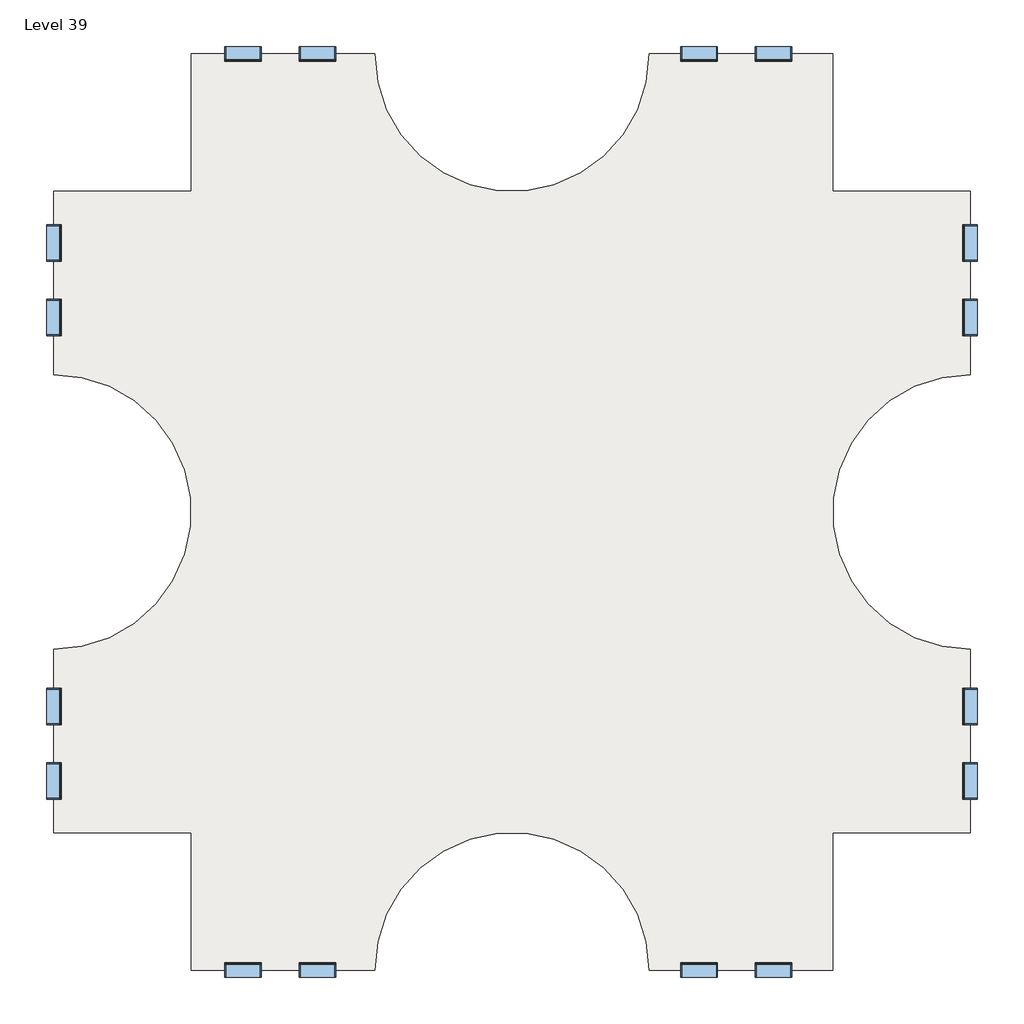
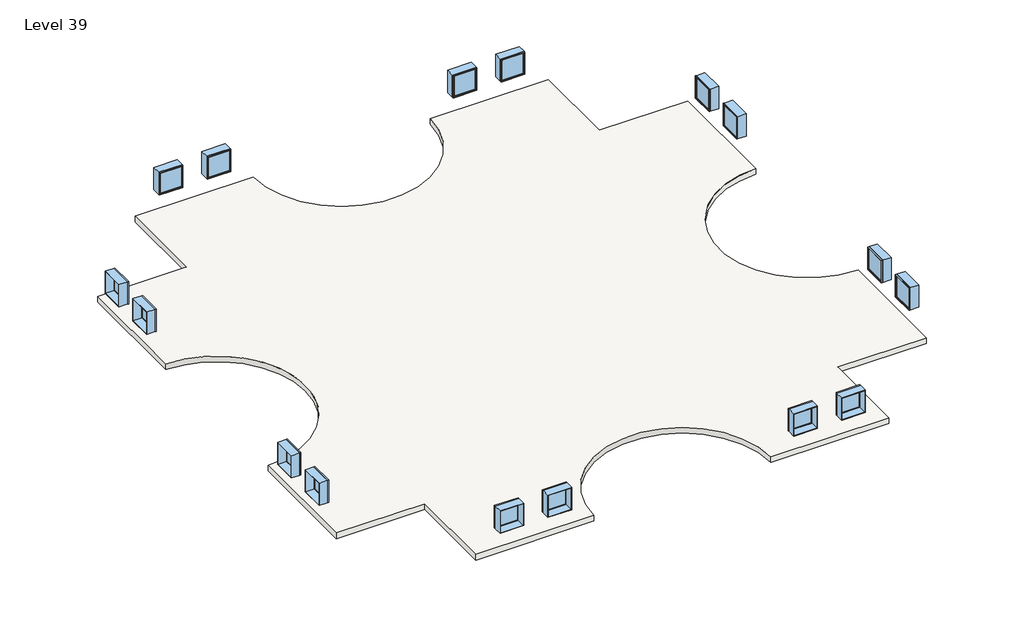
# One storey: 16 windows, 3 slabs.
"""IFC4 building model written with IfcOpenShell, lengths in millimetres."""

import ifcopenshell
import ifcopenshell.guid

model = None  # the IFC model being written
_history = None  # IfcOwnerHistory: only IFC2X3 demands one
_inside = {}  # id of a spatial element -> (the spatial element, [elements in it])
_under = {}  # id of a project, library or spatial element -> (it, [spatial elements below it])
_declared = {}  # id of a project -> (the project, [libraries it declares])
_typed = {}  # id of a type object -> (the type object, [elements of that type])
_made_of = {}  # id of a material, layer set ... -> (it, [elements and type objects made of it])


def new_model(schema):
    """Start an empty IFC model of exactly this schema.

    Asked for "IFC4X3", IfcOpenShell would pick the latest addendum, in which some entities
    have other attributes; the version numbers below select the first issue.
    IFC2X3 requires an IfcOwnerHistory on every rooted entity: one is made here for all.
    """
    global model, _history
    if schema == "IFC4X3":
        model = ifcopenshell.file(schema_version=(4, 3, 0, 0))
    else:
        model = ifcopenshell.file(schema=schema)
    _inside.clear()
    _under.clear()
    _declared.clear()
    _typed.clear()
    _made_of.clear()
    _history = None
    if model.schema == "IFC2X3":
        org = make("IfcOrganization", Name="unknown")
        user = make(
            "IfcPersonAndOrganization",
            ThePerson=make("IfcPerson", FamilyName="unknown"),
            TheOrganization=org,
        )
        app = make(
            "IfcApplication",
            ApplicationDeveloper=org,
            Version="unknown",
            ApplicationFullName="unknown",
            ApplicationIdentifier="unknown",
        )
        _history = make(
            "IfcOwnerHistory",
            OwningUser=user,
            OwningApplication=app,
            ChangeAction="ADDED",
            CreationDate=0,
        )
    return model


def make(cls, **values):
    """One entity of the class cls with the attributes given. An attribute that is None is left unset."""
    return model.create_entity(
        cls, **{name: value for name, value in values.items() if value is not None}
    )


def rooted(cls, **values):
    """An entity with a GlobalId (a new one), such as an element, a storey or a relation."""
    return make(cls, GlobalId=ifcopenshell.guid.new(), OwnerHistory=_history, **values)


def si_unit(unit_type, name, prefix=None):
    """IfcSIUnit, for example si_unit("LENGTHUNIT", "METRE", prefix="MILLI")."""
    return make("IfcSIUnit", UnitType=unit_type, Prefix=prefix, Name=name)


def assignment(units):
    """IfcUnitAssignment: the units of a project."""
    return None if units is None else make("IfcUnitAssignment", Units=units)


def point(xyz):
    """IfcCartesianPoint."""
    return None if xyz is None else make("IfcCartesianPoint", Coordinates=xyz)


def direction(xyz):
    """IfcDirection."""
    return None if xyz is None else make("IfcDirection", DirectionRatios=xyz)


def frame(location, z_axis=None, x_axis=None):
    """IfcAxis2Placement3D, a coordinate frame: its origin and axes. An axis left out is left unset."""
    return make(
        "IfcAxis2Placement3D",
        Location=point(location),
        Axis=direction(z_axis),
        RefDirection=direction(x_axis),
    )


def frame_2d(location, x_axis=None):
    """IfcAxis2Placement2D, a coordinate frame in the plane: its origin and x axis."""
    return make(
        "IfcAxis2Placement2D", Location=point(location), RefDirection=direction(x_axis)
    )


def origin():
    """The frame at (0, 0, 0) with its axes left unset."""
    return frame((0.0, 0.0, 0.0))


def place(relative_to, where):
    """IfcLocalPlacement: puts the frame where relative to a parent placement (None: the world)."""
    return make(
        "IfcLocalPlacement", PlacementRelTo=relative_to, RelativePlacement=where
    )


def context(
    kind, dimensions, precision=None, world=None, true_north=None, identifier=None
):
    """IfcGeometricRepresentationContext, for example the 3D "Model" context."""
    return make(
        "IfcGeometricRepresentationContext",
        ContextIdentifier=identifier,
        ContextType=kind,
        CoordinateSpaceDimension=dimensions,
        Precision=precision,
        WorldCoordinateSystem=world,
        TrueNorth=true_north,
    )


def project(units=None, contexts=None):
    """IfcProject with its units and contexts."""
    return rooted(
        "IfcProject",
        Name="project",
        RepresentationContexts=contexts,
        UnitsInContext=assignment(units),
    )


def spatial(cls, under=None, at=None, **own):
    """A site, building, storey or space (cls), placed at a placement, below another one or the project."""
    s = rooted(cls, ObjectPlacement=at, **own)
    if under is not None:
        _under.setdefault(under.id(), (under, []))[1].append(s)
    return s


def polyline(points):
    """IfcPolyline through the points."""
    return make("IfcPolyline", Points=[point(p) for p in points])


def circle_curve(where, radius):
    """IfcCircle in the frame where."""
    return make("IfcCircle", Position=where, Radius=radius)


def trimmed(basis, trim1, trim2, sense, master):
    """IfcTrimmedCurve: the piece of a basis curve between two trims."""
    return make(
        "IfcTrimmedCurve",
        BasisCurve=basis,
        Trim1=trim1,
        Trim2=trim2,
        SenseAgreement=sense,
        MasterRepresentation=master,
    )


def segment(curve, same_sense, transition):
    """IfcCompositeCurveSegment."""
    return make(
        "IfcCompositeCurveSegment",
        Transition=transition,
        SameSense=same_sense,
        ParentCurve=curve,
    )


def composite_curve(segments, self_intersect=None):
    """IfcCompositeCurve: segments joined end to end."""
    return make("IfcCompositeCurve", Segments=segments, SelfIntersect=self_intersect)


def outline(outer, holes=None, kind="AREA"):
    """IfcArbitraryClosedProfileDef: a profile drawn as a closed curve; with holes, ...WithVoids."""
    if holes is None:
        return make("IfcArbitraryClosedProfileDef", ProfileType=kind, OuterCurve=outer)
    return make(
        "IfcArbitraryProfileDefWithVoids",
        ProfileType=kind,
        OuterCurve=outer,
        InnerCurves=holes,
    )


def extrude(swept, where, along, depth):
    """IfcExtrudedAreaSolid: the profile swept, set in the frame where, extruded along a direction by depth."""
    return make(
        "IfcExtrudedAreaSolid",
        SweptArea=swept,
        Position=where,
        ExtrudedDirection=direction(along),
        Depth=depth,
    )


def shape(context_of_items, identifier, shape_type, items):
    """IfcShapeRepresentation: the items that make up one representation, for example the "Body"."""
    return make(
        "IfcShapeRepresentation",
        ContextOfItems=context_of_items,
        RepresentationIdentifier=identifier,
        RepresentationType=shape_type,
        Items=items,
    )


def source(mapping_origin, context_of_items, identifier, shape_type, items):
    """IfcRepresentationMap: a shape defined once, which mapped items show again and again."""
    return make(
        "IfcRepresentationMap",
        MappingOrigin=mapping_origin,
        MappedRepresentation=shape(context_of_items, identifier, shape_type, items),
    )


def transform(
    local_origin,
    x_axis=None,
    y_axis=None,
    z_axis=None,
    scale=None,
    scale2=None,
    scale3=None,
    uniform=True,
):
    """IfcCartesianTransformationOperator3D, or its non-uniform kind. x_axis, y_axis, z_axis: its Axis1, 2, 3."""
    if uniform:
        return make(
            "IfcCartesianTransformationOperator3D",
            Axis1=direction(x_axis),
            Axis2=direction(y_axis),
            LocalOrigin=point(local_origin),
            Scale=scale,
            Axis3=direction(z_axis),
        )
    return make(
        "IfcCartesianTransformationOperator3DnonUniform",
        Axis1=direction(x_axis),
        Axis2=direction(y_axis),
        LocalOrigin=point(local_origin),
        Scale=scale,
        Axis3=direction(z_axis),
        Scale2=scale2,
        Scale3=scale3,
    )


def mapped(mapping_source, mapping_target):
    """IfcMappedItem: shows the shape of a source again, moved by a transform."""
    return make(
        "IfcMappedItem", MappingSource=mapping_source, MappingTarget=mapping_target
    )


def made_of(thing, what):
    """Note that an element or type object is made of a material, layer set ...; save() writes the relation."""
    if what is not None:
        _made_of.setdefault(what.id(), (what, []))[1].append(thing)
    return thing


def element(
    cls,
    number,
    at=None,
    inside=None,
    cuts=None,
    type_object=None,
    material=None,
    context=None,
    identifier="Body",
    shape_type=None,
    held_by="IfcProductDefinitionShape",
    body=None,
    shapes=None,
    **own,
):
    """One element of the class cls, such as IfcWall. Its Tag is "e" and its number.

    at: its placement. inside: the storey or other place that contains it. cuts: it is an
    opening in that element (IfcRelVoidsElement). A single representation is given by context,
    identifier, shape_type and body (its items); several are given by shapes. held_by: the class
    of the entity that holds the representations. save() writes the other relations.
    """
    e = rooted(cls, Tag="e%d" % number, ObjectPlacement=at, **own)
    if body is not None:
        shapes = [shape(context, identifier, shape_type, body)]
    if shapes is not None:
        e.Representation = make(held_by, Representations=shapes)
    if inside is not None:
        _inside.setdefault(inside.id(), (inside, []))[1].append(e)
    if cuts is not None:
        rooted(
            "IfcRelVoidsElement", RelatingBuildingElement=cuts, RelatedOpeningElement=e
        )
    if type_object is not None:
        _typed.setdefault(type_object.id(), (type_object, []))[1].append(e)
    return made_of(e, material)


def aggregate(whole, parts):
    """IfcRelAggregates: a whole, such as a stair, and the parts it consists of."""
    return rooted("IfcRelAggregates", RelatingObject=whole, RelatedObjects=parts)


def save(model, path):
    """Write the relations noted so far, then the file.

    IfcRelAggregates (storeys below a building ...), IfcRelContainedInSpatialStructure (elements
    in a storey), IfcRelDefinesByType, IfcRelAssociatesMaterial and IfcRelDeclares: one each for
    every whole, place, type object, material and project.
    """
    for whole, parts in _under.values():
        aggregate(whole, parts)
    for where, things in _inside.values():
        rooted(
            "IfcRelContainedInSpatialStructure",
            RelatedElements=things,
            RelatingStructure=where,
        )
    for kind, things in _typed.values():
        rooted("IfcRelDefinesByType", RelatedObjects=things, RelatingType=kind)
    for what, things in _made_of.values():
        rooted("IfcRelAssociatesMaterial", RelatedObjects=things, RelatingMaterial=what)
    for by, libraries in _declared.values():
        rooted("IfcRelDeclares", RelatingContext=by, RelatedDefinitions=libraries)
    model.write(path)


def window_d0035ecf(model_context):
    return source(origin(), model_context, "Body", "SweptSolid", [
        extrude(outline(polyline([(508.0, 200.025), (-584.2, 200.025), (-584.2, 212.725), (508.0, 212.725), (508.0, 200.025)])), frame((0.0, 0.0, 977.9), z_axis=(0.0, 0.0, 1.0), x_axis=(1.0, 0.0, 0.0)), (0.0, 0.0, 1.0), 1092.2),
        extrude(outline(polyline([(2114.55, -628.65), (933.45, -628.65), (933.45, 552.45), (2114.55, 552.45), (2114.55, -628.65)]), holes=[polyline([(2070.1, -584.2), (2070.1, 508.0), (977.9, 508.0), (977.9, -584.2), (2070.1, -584.2)])]), frame((0.0, 184.15, 0.0), z_axis=(0.0, 1.0, 0.0), x_axis=(0.0, 0.0, 1.0)), (0.0, 0.0, 1.0), 44.45),
        extrude(outline(polyline([(2133.6, -647.7), (914.4, -647.7), (914.4, 571.5), (2133.6, 571.5), (2133.6, -647.7)]), holes=[polyline([(2101.85, -615.95), (2101.85, 539.75), (946.15, 539.75), (946.15, -615.95), (2101.85, -615.95)])]), frame((0.0, -247.65, 0.0), z_axis=(0.0, 1.0, 0.0), x_axis=(0.0, 0.0, 1.0)), (0.0, 0.0, 1.0), 431.8),
        extrude(outline(polyline([(2133.6, 571.5), (2133.6, -647.7), (914.4, -647.7), (914.4, 571.5), (2133.6, 571.5)]), holes=[polyline([(2114.55, 552.45), (933.45, 552.45), (933.45, -628.65), (2114.55, -628.65), (2114.55, 552.45)])]), frame((0.0, 184.15, 0.0), z_axis=(0.0, 1.0, 0.0), x_axis=(0.0, 0.0, 1.0)), (0.0, 0.0, 1.0), 63.5),
    ])


def window_d434eb62(model_context):
    return source(origin(), model_context, "Body", "SweptSolid", [
        extrude(outline(polyline([(508.0, -200.025), (508.0, -212.725), (-584.2, -212.725), (-584.2, -200.025), (508.0, -200.025)])), frame((0.0, 0.0, 977.9), z_axis=(0.0, 0.0, 1.0), x_axis=(1.0, 0.0, 0.0)), (0.0, 0.0, 1.0), 1092.2),
        extrude(outline(polyline([(2114.55, -628.65), (933.45, -628.65), (933.45, 552.45), (2114.55, 552.45), (2114.55, -628.65)]), holes=[polyline([(2070.1, -584.2), (2070.1, 508.0), (977.9, 508.0), (977.9, -584.2), (2070.1, -584.2)])]), frame((0.0, -228.6, 0.0), z_axis=(0.0, 1.0, 0.0), x_axis=(0.0, 0.0, 1.0)), (0.0, 0.0, 1.0), 44.45),
        extrude(outline(polyline([(2133.6, -647.7), (914.4, -647.7), (914.4, 571.5), (2133.6, 571.5), (2133.6, -647.7)]), holes=[polyline([(2101.85, -615.95), (2101.85, 539.75), (946.15, 539.75), (946.15, -615.95), (2101.85, -615.95)])]), frame((0.0, -184.15, 0.0), z_axis=(0.0, 1.0, 0.0), x_axis=(0.0, 0.0, 1.0)), (0.0, 0.0, 1.0), 431.8),
        extrude(outline(polyline([(2133.6, 571.5), (2133.6, -647.7), (914.4, -647.7), (914.4, 571.5), (2133.6, 571.5)]), holes=[polyline([(2114.55, 552.45), (933.45, 552.45), (933.45, -628.65), (2114.55, -628.65), (2114.55, 552.45)])]), frame((0.0, -247.65, 0.0), z_axis=(0.0, 1.0, 0.0), x_axis=(0.0, 0.0, 1.0)), (0.0, 0.0, 1.0), 63.5),
    ])


model = new_model("IFC4")

# Units and contexts
model_context = context("Model", 3, world=origin())
ifc_project = project(units=[si_unit("LENGTHUNIT", "METRE", prefix="MILLI")], contexts=[model_context])

# Site, building, storey
site = spatial("IfcSite", under=ifc_project)
building = spatial("IfcBuilding", under=site)
storey = spatial("IfcBuildingStorey", under=building, Name="Level 39", Elevation=115824.0)

# Slabs
placement = place(None, origin())
element("IfcSlab", 1, ObjectType="Generic - 12\"", at=placement, inside=storey, context=model_context, shape_type="SweptSolid", body=[
    extrude(outline(composite_curve([segment(polyline([(-7150.3629456, 4479.6634547), (-7150.3629456, 9051.6634547), (-1054.3629456, 9051.6634547)]), True, "CONTINUOUS"), segment(trimmed(circle_curve(frame_2d((3517.6370544, 9051.6634547)), 4572.0), [point((-1054.3629456, 9051.6634547))], [point((8089.6370544, 9051.6634547))], True, "CARTESIAN"), True, "CONTINUOUS"), segment(polyline([(8089.6370544, 9051.6634547), (14185.6370544, 9051.6634547), (14185.6370544, 4479.6634547), (18757.6370544, 4479.6634547), (18757.6370544, -1616.3365453)]), True, "CONTINUOUS"), segment(trimmed(circle_curve(frame_2d((18757.6370544, -6188.3365453)), 4572.0), [point((18757.6370544, -1616.3365453))], [point((18757.6370544, -10760.3365453))], True, "CARTESIAN"), True, "CONTINUOUS"), segment(polyline([(18757.6370544, -10760.3365453), (18757.6370544, -16856.3365453), (14185.6370544, -16856.3365453), (14185.6370544, -21428.3365453), (8089.6370544, -21428.3365453)]), True, "CONTINUOUS"), segment(trimmed(circle_curve(frame_2d((3517.6370544, -21428.3365453)), 4572.0), [point((8089.6370544, -21428.3365453))], [point((-1054.3629456, -21428.3365453))], True, "CARTESIAN"), True, "CONTINUOUS"), segment(polyline([(-1054.3629456, -21428.3365453), (-7150.3629456, -21428.3365453), (-7150.3629456, -16856.3365453), (-11722.3629456, -16856.3365453), (-11722.3629456, -10760.3365453)]), True, "CONTINUOUS"), segment(trimmed(circle_curve(frame_2d((-11722.3629456, -6188.3365453)), 4572.0), [point((-11722.3629456, -10760.3365453))], [point((-11722.3629456, -1616.3365453))], True, "CARTESIAN"), True, "CONTINUOUS"), segment(polyline([(-11722.3629456, -1616.3365453), (-11722.3629456, 4479.6634547), (-7150.3629456, 4479.6634547)]), True, "CONTINUOUS")], self_intersect=False)), frame((0.0, 0.0, 115519.2), z_axis=(0.0, 0.0, 1.0), x_axis=(1.0, 0.0, 0.0)), (0.0, 0.0, 1.0), 304.8),
])
element("IfcSlab", 2, ObjectType="Generic - 12\"", at=placement, inside=storey, context=model_context, shape_type="SweptSolid", body=[
    extrude(outline(composite_curve([segment(polyline([(-7150.3629456, 4479.6634547), (-7150.3629456, 9051.6634547), (-1054.3629456, 9051.6634547)]), True, "CONTINUOUS"), segment(trimmed(circle_curve(frame_2d((3517.6370544, 9051.6634547)), 4572.0), [point((-1054.3629456, 9051.6634547))], [point((8089.6370544, 9051.6634547))], True, "CARTESIAN"), True, "CONTINUOUS"), segment(polyline([(8089.6370544, 9051.6634547), (14185.6370544, 9051.6634547), (14185.6370544, 4479.6634547), (18757.6370544, 4479.6634547), (18757.6370544, -1616.3365453)]), True, "CONTINUOUS"), segment(trimmed(circle_curve(frame_2d((18757.6370544, -6188.3365453)), 4572.0), [point((18757.6370544, -1616.3365453))], [point((18757.6370544, -10760.3365453))], True, "CARTESIAN"), True, "CONTINUOUS"), segment(polyline([(18757.6370544, -10760.3365453), (18757.6370544, -16856.3365453), (14185.6370544, -16856.3365453), (14185.6370544, -21428.3365453), (8089.6370544, -21428.3365453)]), True, "CONTINUOUS"), segment(trimmed(circle_curve(frame_2d((3517.6370544, -21428.3365453)), 4572.0), [point((8089.6370544, -21428.3365453))], [point((-1054.3629456, -21428.3365453))], True, "CARTESIAN"), True, "CONTINUOUS"), segment(polyline([(-1054.3629456, -21428.3365453), (-7150.3629456, -21428.3365453), (-7150.3629456, -16856.3365453), (-11722.3629456, -16856.3365453), (-11722.3629456, -10760.3365453)]), True, "CONTINUOUS"), segment(trimmed(circle_curve(frame_2d((-11722.3629456, -6188.3365453)), 4572.0), [point((-11722.3629456, -10760.3365453))], [point((-11722.3629456, -1616.3365453))], True, "CARTESIAN"), True, "CONTINUOUS"), segment(polyline([(-11722.3629456, -1616.3365453), (-11722.3629456, 4479.6634547), (-7150.3629456, 4479.6634547)]), True, "CONTINUOUS")], self_intersect=False)), frame((0.0, 0.0, 115519.2), z_axis=(0.0, 0.0, 1.0), x_axis=(1.0, 0.0, 0.0)), (0.0, 0.0, 1.0), 304.8),
])
element("IfcSlab", 3, ObjectType="Generic - 12\"", at=placement, inside=storey, context=model_context, shape_type="SweptSolid", body=[
    extrude(outline(composite_curve([segment(polyline([(-7150.3629456, 4479.6634547), (-7150.3629456, 9051.6634547), (-1054.3629456, 9051.6634547)]), True, "CONTINUOUS"), segment(trimmed(circle_curve(frame_2d((3517.6370544, 9051.6634547)), 4572.0), [point((-1054.3629456, 9051.6634547))], [point((8089.6370544, 9051.6634547))], True, "CARTESIAN"), True, "CONTINUOUS"), segment(polyline([(8089.6370544, 9051.6634547), (14185.6370544, 9051.6634547), (14185.6370544, 4479.6634547), (18757.6370544, 4479.6634547), (18757.6370544, -1616.3365453)]), True, "CONTINUOUS"), segment(trimmed(circle_curve(frame_2d((18757.6370544, -6188.3365453)), 4572.0), [point((18757.6370544, -1616.3365453))], [point((18757.6370544, -10760.3365453))], True, "CARTESIAN"), True, "CONTINUOUS"), segment(polyline([(18757.6370544, -10760.3365453), (18757.6370544, -16856.3365453), (14185.6370544, -16856.3365453), (14185.6370544, -21428.3365453), (8089.6370544, -21428.3365453)]), True, "CONTINUOUS"), segment(trimmed(circle_curve(frame_2d((3517.6370544, -21428.3365453)), 4572.0), [point((8089.6370544, -21428.3365453))], [point((-1054.3629456, -21428.3365453))], True, "CARTESIAN"), True, "CONTINUOUS"), segment(polyline([(-1054.3629456, -21428.3365453), (-7150.3629456, -21428.3365453), (-7150.3629456, -16856.3365453), (-11722.3629456, -16856.3365453), (-11722.3629456, -10760.3365453)]), True, "CONTINUOUS"), segment(trimmed(circle_curve(frame_2d((-11722.3629456, -6188.3365453)), 4572.0), [point((-11722.3629456, -10760.3365453))], [point((-11722.3629456, -1616.3365453))], True, "CARTESIAN"), True, "CONTINUOUS"), segment(polyline([(-11722.3629456, -1616.3365453), (-11722.3629456, 4479.6634547), (-7150.3629456, 4479.6634547)]), True, "CONTINUOUS")], self_intersect=False)), frame((0.0, 0.0, 115519.2), z_axis=(0.0, 0.0, 1.0), x_axis=(1.0, 0.0, 0.0)), (0.0, 0.0, 1.0), 304.8),
])

# Windows
window_shape = window_d0035ecf(model_context)
element("IfcWindow", 4, ObjectType="Fixed : 48\" x 48\"", at=placement, inside=storey, context=model_context, shape_type="MappedRepresentation", body=[
    mapped(window_shape, transform((-11719.1879456, 247.3884547, 115824.0), x_axis=(0.0, -1.0, 0.0), y_axis=(1.0, 0.0, 0.0), z_axis=(0.0, 0.0, 1.0))),
])
element("IfcWindow", 5, ObjectType="Fixed : 48\" x 48\"", at=placement, inside=storey, context=model_context, shape_type="MappedRepresentation", body=[
    mapped(window_shape, transform((-5469.1993281, 9048.4884547, 115824.0), x_axis=(-1.0, 0.0, 0.0), y_axis=(0.0, -1.0, 0.0), z_axis=(0.0, 0.0, 1.0))),
])
element("IfcWindow", 6, ObjectType="Fixed : 48\" x 48\"", at=placement, inside=storey, context=model_context, shape_type="MappedRepresentation", body=[
    mapped(window_shape, transform((-11719.1879456, -15175.1729277, 115824.0), x_axis=(0.0, -1.0, 0.0), y_axis=(1.0, 0.0, 0.0), z_axis=(0.0, 0.0, 1.0))),
])
element("IfcWindow", 7, ObjectType="Fixed : 48\" x 48\"", at=placement, inside=storey, context=model_context, shape_type="MappedRepresentation", body=[
    mapped(window_shape, transform((-2918.0879456, -21425.1615453, 115824.0), x_axis=(1.0, 0.0, 0.0), y_axis=(0.0, 1.0, 0.0), z_axis=(0.0, 0.0, 1.0))),
])
element("IfcWindow", 8, ObjectType="Fixed : 48\" x 48\"", at=placement, inside=storey, context=model_context, shape_type="MappedRepresentation", body=[
    mapped(window_shape, transform((18754.4620544, 2798.4998372, 115824.0), x_axis=(0.0, 1.0, 0.0), y_axis=(-1.0, 0.0, 0.0), z_axis=(0.0, 0.0, 1.0))),
])
element("IfcWindow", 9, ObjectType="Fixed : 48\" x 48\"", at=placement, inside=storey, context=model_context, shape_type="MappedRepresentation", body=[
    mapped(window_shape, transform((9705.7120544, 9048.4884547, 115824.0), x_axis=(-1.0, 0.0, 0.0), y_axis=(0.0, -1.0, 0.0), z_axis=(0.0, 0.0, 1.0))),
])
element("IfcWindow", 10, ObjectType="Fixed : 48\" x 48\"", at=placement, inside=storey, context=model_context, shape_type="MappedRepresentation", body=[
    mapped(window_shape, transform((18754.4620544, -12624.0615453, 115824.0), x_axis=(0.0, 1.0, 0.0), y_axis=(-1.0, 0.0, 0.0), z_axis=(0.0, 0.0, 1.0))),
])
element("IfcWindow", 11, ObjectType="Fixed : 48\" x 48\"", at=placement, inside=storey, context=model_context, shape_type="MappedRepresentation", body=[
    mapped(window_shape, transform((12256.8234368, -21425.1615453, 115824.0), x_axis=(1.0, 0.0, 0.0), y_axis=(0.0, 1.0, 0.0), z_axis=(0.0, 0.0, 1.0))),
])
window_2_shape = window_d434eb62(model_context)
element("IfcWindow", 12, ObjectType="Fixed : 48\" x 48\"", at=placement, inside=storey, context=model_context, shape_type="MappedRepresentation", body=[
    mapped(window_2_shape, transform((-11719.1879456, 2798.4998372, 115824.0), x_axis=(0.0, 1.0, 0.0), y_axis=(-1.0, 0.0, 0.0), z_axis=(0.0, 0.0, 1.0))),
])
element("IfcWindow", 13, ObjectType="Fixed : 48\" x 48\"", at=placement, inside=storey, context=model_context, shape_type="MappedRepresentation", body=[
    mapped(window_2_shape, transform((-2918.0879456, 9048.4884547, 115824.0), x_axis=(1.0, 0.0, 0.0), y_axis=(0.0, 1.0, 0.0), z_axis=(0.0, 0.0, 1.0))),
])
element("IfcWindow", 14, ObjectType="Fixed : 48\" x 48\"", at=placement, inside=storey, context=model_context, shape_type="MappedRepresentation", body=[
    mapped(window_2_shape, transform((-11719.1879456, -12624.0615453, 115824.0), x_axis=(0.0, 1.0, 0.0), y_axis=(-1.0, 0.0, 0.0), z_axis=(0.0, 0.0, 1.0))),
])
element("IfcWindow", 15, ObjectType="Fixed : 48\" x 48\"", at=placement, inside=storey, context=model_context, shape_type="MappedRepresentation", body=[
    mapped(window_2_shape, transform((-5469.1993281, -21425.1615453, 115824.0), x_axis=(-1.0, 0.0, 0.0), y_axis=(0.0, -1.0, 0.0), z_axis=(0.0, 0.0, 1.0))),
])
element("IfcWindow", 16, ObjectType="Fixed : 48\" x 48\"", at=placement, inside=storey, context=model_context, shape_type="MappedRepresentation", body=[
    mapped(window_2_shape, transform((18754.4620544, 247.3884547, 115824.0), x_axis=(0.0, -1.0, 0.0), y_axis=(1.0, 0.0, 0.0), z_axis=(0.0, 0.0, 1.0))),
])
element("IfcWindow", 17, ObjectType="Fixed : 48\" x 48\"", at=placement, inside=storey, context=model_context, shape_type="MappedRepresentation", body=[
    mapped(window_2_shape, transform((12256.8234368, 9048.4884547, 115824.0), x_axis=(1.0, 0.0, 0.0), y_axis=(0.0, 1.0, 0.0), z_axis=(0.0, 0.0, 1.0))),
])
element("IfcWindow", 18, ObjectType="Fixed : 48\" x 48\"", at=placement, inside=storey, context=model_context, shape_type="MappedRepresentation", body=[
    mapped(window_2_shape, transform((18754.4620544, -15175.1729277, 115824.0), x_axis=(0.0, -1.0, 0.0), y_axis=(1.0, 0.0, 0.0), z_axis=(0.0, 0.0, 1.0))),
])
element("IfcWindow", 19, ObjectType="Fixed : 48\" x 48\"", at=placement, inside=storey, context=model_context, shape_type="MappedRepresentation", body=[
    mapped(window_2_shape, transform((9705.7120544, -21425.1615453, 115824.0), x_axis=(-1.0, 0.0, 0.0), y_axis=(0.0, -1.0, 0.0), z_axis=(0.0, 0.0, 1.0))),
])

save(model, "model.ifc")
